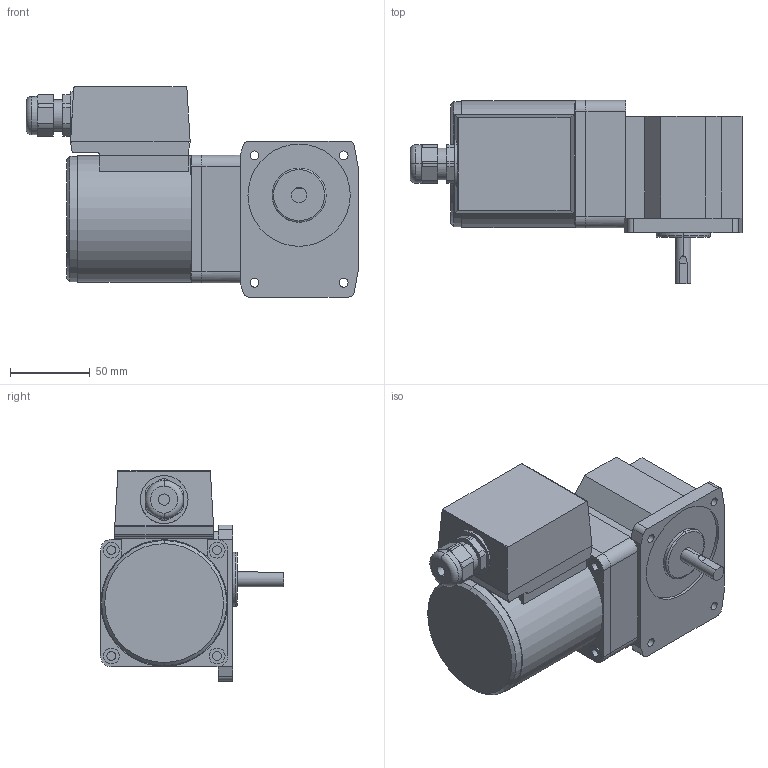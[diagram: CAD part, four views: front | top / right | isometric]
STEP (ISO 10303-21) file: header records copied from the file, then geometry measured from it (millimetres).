
FILE_DESCRIPTION(('starvars output'),'2;1');
FILE_NAME('4IK25GN-CW2TE _ 4GN5RAA.stp','10:32:31 2015/05/11',( 'Thomas Industrial Network Germany GmbH'),( 'Thomas Industrial Network Germany GmbH'),'unknown preprocess','ACIS' ,'unknown authorization');
FILE_SCHEMA(('AUTOMOTIVE_DESIGN_CC2 {UNKNOWN IMPLEMENTATION LEVEL}'));
Length unit declared in the file: millimetre
Products named in the file (1): PRODUCT_ID_1061
Bounding box: 208.51 x 115 x 132 mm (x, y, z)
Volume: 1204536.6 mm3; surface area: 97250 mm2
Topology: 3 solids, 3 shells, 197 faces, 494 edges, 324 vertices
Faces by surface type: plane 99, cylinder 84, torus 12, cone 2
Entity records: 7123 total; most frequent: CARTESIAN_POINT 1079, ORIENTED_EDGE 988, DIRECTION 810, EDGE_CURVE 494, VERTEX_POINT 324, VECTOR 292, LINE 292, AXIS2_PLACEMENT_3D 259
